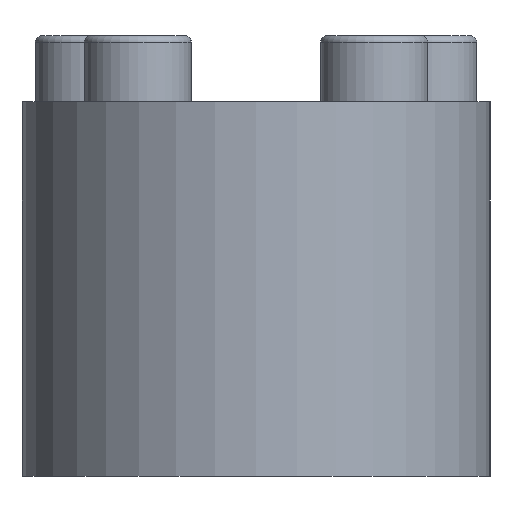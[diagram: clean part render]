
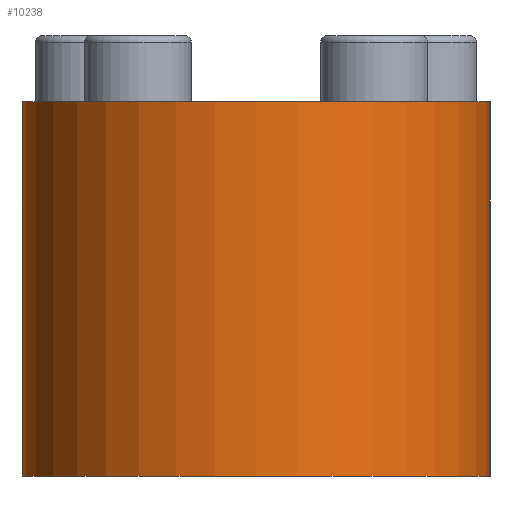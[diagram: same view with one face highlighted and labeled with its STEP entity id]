
A CAD part, left-side view. The second image highlights one B-rep face of the part: STEP entity #10238.
In plain terms, the highlighted cylindrical face has radius 35 mm (diameter 70 mm), a partial arc.
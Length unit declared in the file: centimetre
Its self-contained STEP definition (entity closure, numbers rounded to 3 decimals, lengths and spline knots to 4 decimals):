
#832=CYLINDRICAL_SURFACE('',#10848,3.5);
#1524=FACE_OUTER_BOUND('',#2161,.T.);
#2161=EDGE_LOOP('',(#7799,#7800,#7801,#7802));
#2928=LINE('',#14802,#3842);
#2929=LINE('',#14806,#3843);
#3842=VECTOR('',#11762,5.6);
#3843=VECTOR('',#11767,5.6);
#4455=CIRCLE('',#10713,3.5);
#4475=CIRCLE('',#10849,3.5);
#4510=VERTEX_POINT('',#12882);
#4513=VERTEX_POINT('',#12887);
#5028=VERTEX_POINT('',#14800);
#5029=VERTEX_POINT('',#14804);
#5491=EDGE_CURVE('',#4513,#4510,#4455,.T.);
#6084=EDGE_CURVE('',#5028,#4510,#2928,.T.);
#6085=EDGE_CURVE('',#5028,#5029,#4475,.T.);
#6086=EDGE_CURVE('',#5029,#4513,#2929,.T.);
#7799=ORIENTED_EDGE('',*,*,#6085,.F.);
#7800=ORIENTED_EDGE('',*,*,#6084,.T.);
#7801=ORIENTED_EDGE('',*,*,#5491,.F.);
#7802=ORIENTED_EDGE('',*,*,#6086,.F.);
#10238=ADVANCED_FACE('',(#1524),#832,.T.);
#10713=AXIS2_PLACEMENT_3D('',#12889,#11173,#11174);
#10848=AXIS2_PLACEMENT_3D('',#14803,#11763,#11764);
#10849=AXIS2_PLACEMENT_3D('',#14805,#11765,#11766);
#11173=DIRECTION('center_axis',(0.,0.,
1.));
#11174=DIRECTION('ref_axis',(0.,1.,0.));
#11762=DIRECTION('',(0.,0.,1.));
#11763=DIRECTION('center_axis',(0.,0.,1.));
#11764=DIRECTION('ref_axis',(0.,-1.,0.));
#11765=DIRECTION('center_axis',(0.,0.,-1.));
#11766=DIRECTION('ref_axis',(0.,-1.,0.));
#11767=DIRECTION('',(0.,0.,1.));
#12882=CARTESIAN_POINT('',(-9.3,-3.5,5.6));
#12887=CARTESIAN_POINT('',(-9.3,3.5,5.6));
#12889=CARTESIAN_POINT('Origin',(-9.3,0.,5.6));
#14800=CARTESIAN_POINT('',(-9.3,-3.5,0.));
#14802=CARTESIAN_POINT('',(-9.3,-3.5,0.));
#14803=CARTESIAN_POINT('Origin',(-9.3,0.,0.));
#14804=CARTESIAN_POINT('',(-9.3,3.5,0.));
#14805=CARTESIAN_POINT('Origin',(-9.3,0.,0.));
#14806=CARTESIAN_POINT('',(-9.3,3.5,0.));
